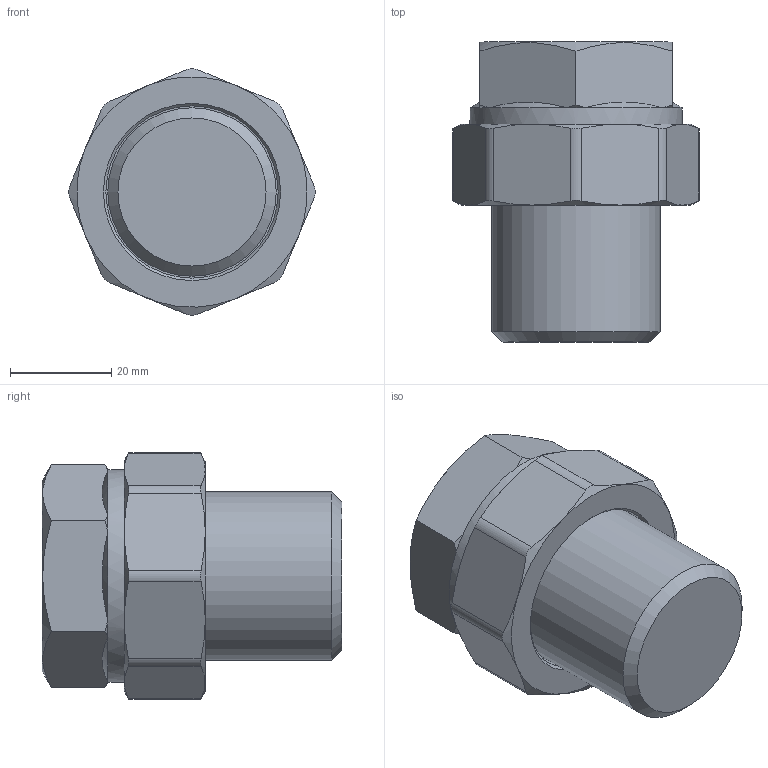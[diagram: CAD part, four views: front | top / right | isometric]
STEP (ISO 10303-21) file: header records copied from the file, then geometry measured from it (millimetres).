
FILE_DESCRIPTION(('STEP AP203'), '1');
FILE_NAME('覆.302612.003.000 捘 - VTr.341.N.0006', '2024-07-18T13:38:03', ('Boss'), (''), 'C3D Converter', 'C3D Toolkit', '');
FILE_SCHEMA(('CONFIG_CONTROL_DESIGN'));
Length unit declared in the file: millimetre
Products named in the file (1): ВР.302612.003.000 СБ
Bounding box: 48.75 x 59.23 x 48.75 mm (x, y, z)
Volume: 71136.2 mm3; surface area: 11226.1 mm2
Topology: 1 solids, 1 shells, 61 faces, 151 edges, 95 vertices
Faces by surface type: cone 31, plane 19, cylinder 11
Full cylindrical faces by diameter (mm): 33.249 x1, 34 x1, 41.91 x1
Entity records: 3591 total; most frequent: CARTESIAN_POINT 2248, ORIENTED_EDGE 290, DIRECTION 235, EDGE_CURVE 145, AXIS2_PLACEMENT_3D 100, VERTEX_POINT 96, B_SPLINE_CURVE_WITH_KNOTS 72, EDGE_LOOP 70
